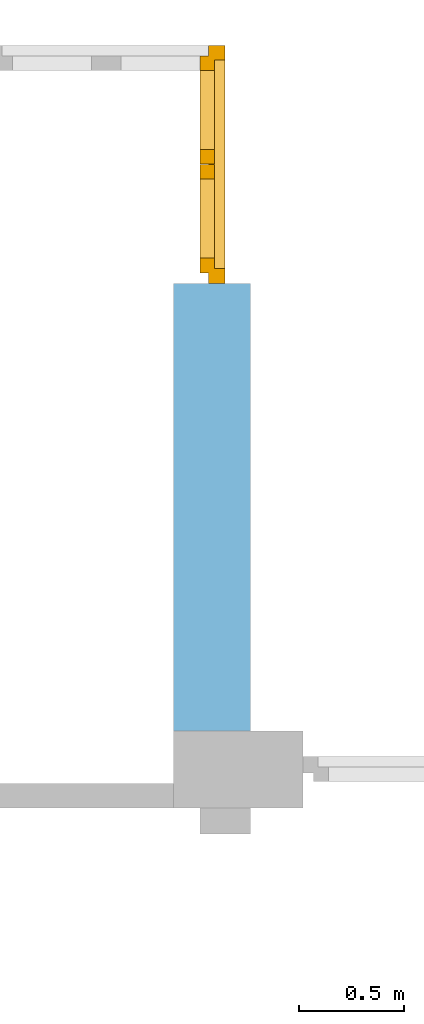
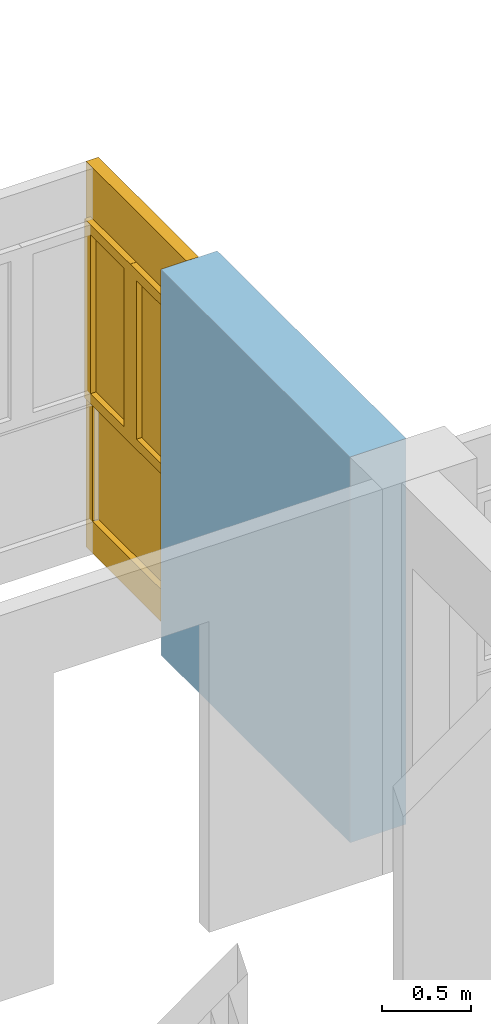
# One storey, part 21 of 42: 1 window, 1 opening, plus 1 element that does not belong to this part.
"""IFC2X3 building model written with IfcOpenShell, lengths in millimetres."""

from ifc_helpers import new_model, entity, si_unit, converted_unit, frame, frame_2d, origin, origin_with_axes, place, context, subcontext, project, spatial, rectangle, extrude, faceted_brep, material, layer, layer_set, layer_usage, type_object, element, fill, save


model = new_model("IFC2X3")

# Units and contexts
model_context = context("Model", 3, precision=1e-05, world=origin())
body_context = subcontext(model_context, "Body", "Model", "MODEL_VIEW")
ifc_project = project(units=[si_unit("LENGTHUNIT", "METRE", prefix="MILLI"), converted_unit("PLANEANGLEUNIT", "DEGREE", entity("IfcPlaneAngleMeasure", 0.0174532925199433), si_unit("PLANEANGLEUNIT", "RADIAN"), dimensions=[0, 0, 0, 0, 0, 0, 0]), si_unit("AREAUNIT", "SQUARE_METRE"), si_unit("VOLUMEUNIT", "CUBIC_METRE")], contexts=[model_context])

# Building, storey
building_placement = place(None, origin())
building = spatial("IfcBuilding", under=ifc_project, at=building_placement, Name="Gebäude", CompositionType="ELEMENT")
storey_placement = place(building_placement, frame((0.0, 0.0, 2730.0), z_axis=(0.0, 0.0, 1.0), x_axis=(1.0, 0.0, 0.0)))
storey = spatial("IfcBuildingStorey", under=building, at=storey_placement, Name="OG.- Grundriss", CompositionType="ELEMENT", Elevation=2730.0)

# Wall, opening, window
ifc_material_1 = material(Name="Poroton")
ifc_layer = layer(ifc_material_1, 365.0000000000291)
ifc_layer_set = layer_set([ifc_layer])
ifc_layer_usage = layer_usage(ifc_layer_set, "AXIS2", "POSITIVE", 0.0)
wall_placement = place(storey_placement, frame((159377.7928067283, 139284.8877324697, 0.0), z_axis=(0.0, 0.0, 1.0), x_axis=(0.0, -1.0, 0.0)))
wall = element("IfcWallStandardCase", 1, at=wall_placement, inside=storey, material=ifc_layer_usage, Name="<Unnamed Element>", context=body_context, shape_type="SweptSolid", body=[
    extrude(rectangle(XDim=3009.999999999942, YDim=365.0000000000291, at=frame_2d((1504.999999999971, 182.5000000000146), x_axis=(1.0, 0.0))), origin_with_axes(), (0.0, 0.0, 1.0), 2650.0),
])
opening_placement = place(wall_placement, frame((0.0, 0.0, 0.0), z_axis=(0.0, 1.0, 0.0), x_axis=(0.0, 0.0, 1.0)))
opening = element("IfcOpeningElement", 2, at=opening_placement, cuts=wall, Name="Fensteröffnung", ObjectType="Opening", context=body_context, shape_type="Brep", body=[
    faceted_brep([(0.0, 884.9999999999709, 0.0), (0.0, 884.9999999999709, 365.0000000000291), (0.0, -365.0000000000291, 365.0000000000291), (0.0, -365.0000000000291, -884.9999999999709), (0.0, 0.0, -884.9999999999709), (0.0, 0.0, 0.0), (2650.0, 884.9999999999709, 365.0000000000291), (2650.0, 884.9999999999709, 0.0), (2650.0, 0.0, 0.0), (2650.0, 0.0, -884.9999999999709), (2650.0, -365.0000000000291, -884.9999999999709), (2650.0, -365.0000000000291, 365.0000000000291), (0.0, 884.9999999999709, 365.0000000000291), (0.0, 884.9999999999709, 0.0), (2650.0, 884.9999999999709, 0.0), (2650.0, 884.9999999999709, 365.0000000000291), (0.0, -365.0000000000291, 365.0000000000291), (0.0, 884.9999999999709, 365.0000000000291), (2650.0, 884.9999999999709, 365.0000000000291), (2650.0, -365.0000000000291, 365.0000000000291), (0.0, 884.9999999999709, 0.0), (0.0, 0.0, 0.0), (2650.0, 0.0, 0.0), (2650.0, 884.9999999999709, 0.0), (0.0, -365.0000000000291, -884.9999999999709), (0.0, -365.0000000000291, 365.0000000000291), (2650.0, -365.0000000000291, 365.0000000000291), (2650.0, -365.0000000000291, -884.9999999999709), (0.0, 0.0, -884.9999999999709), (0.0, -365.0000000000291, -884.9999999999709), (2650.0, -365.0000000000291, -884.9999999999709), (2650.0, 0.0, -884.9999999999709), (0.0, 0.0, 0.0), (0.0, 0.0, -884.9999999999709), (2650.0, 0.0, -884.9999999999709), (2650.0, 0.0, 0.0)], [[[0, 1, 2, 3, 4, 5]], [[6, 7, 8, 9, 10, 11]], [[12, 13, 14, 15]], [[16, 17, 18, 19]], [[20, 21, 22, 23]], [[24, 25, 26, 27]], [[28, 29, 30, 31]], [[32, 33, 34, 35]]], orient=[[False], [False], [False], [False], [False], [False], [False], [False]]),
])
ifc_material_2 = material()
window_style = type_object("IfcWindowStyle", Name="Fenster", ConstructionType="NOTDEFINED", OperationType="USERDEFINED", ParameterTakesPrecedence=False, Sizeable=False)
window_placement = place(opening_placement, frame((0.0, 0.0, 0.0), z_axis=(1.0, 0.0, 0.0), x_axis=(0.0, 1.0, 0.0)))
window = element("IfcWindow", 3, at=window_placement, inside=storey, type_object=window_style, material=ifc_material_2, Name="Fenster", OverallHeight=2650.0, OverallWidth=1067.5, context=body_context, shape_type="Brep", body=[
    faceted_brep([(884.9999999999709, 165.0000000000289, 2650.0), (884.9999999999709, 165.0000000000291, -2.449293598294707e-15), (814.9999999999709, 165.0000000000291, -2.449293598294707e-15), (814.9999999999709, 165.0000000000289, 2650.0), (884.9999999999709, 245.0000000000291, 2.449293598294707e-15), (884.9999999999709, 245.0000000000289, 2650.0), (814.9999999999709, 245.000000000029, 2650.0), (814.9999999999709, 245.0000000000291, 2.449293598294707e-15), (884.9999999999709, 165.0000000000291, -2.449293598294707e-15), (884.9999999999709, 165.0000000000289, 2650.0), (884.9999999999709, 245.0000000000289, 2650.0), (884.9999999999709, 245.0000000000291, 2.449293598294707e-15), (814.9999999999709, 165.0000000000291, -2.449293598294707e-15), (884.9999999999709, 165.0000000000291, -2.449293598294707e-15), (884.9999999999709, 245.0000000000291, 2.449293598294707e-15), (814.9999999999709, 245.0000000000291, 2.449293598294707e-15), (814.9999999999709, 165.0000000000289, 2650.0), (814.9999999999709, 165.0000000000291, -2.449293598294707e-15), (814.9999999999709, 245.0000000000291, 2.449293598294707e-15), (814.9999999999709, 245.000000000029, 2650.0), (884.9999999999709, 165.0000000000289, 2650.0), (814.9999999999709, 165.0000000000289, 2650.0), (814.9999999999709, 245.000000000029, 2650.0), (884.9999999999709, 245.0000000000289, 2650.0)], [[[0, 1, 2, 3]], [[4, 5, 6, 7]], [[8, 9, 10, 11]], [[12, 13, 14, 15]], [[16, 17, 18, 19]], [[20, 21, 22, 23]]], orient=[[False], [False], [False], [False], [False], [False]]),
    faceted_brep([(-175.0000000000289, 165.000000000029, 2650.0), (-175.0000000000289, 165.0000000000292, -2.449293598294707e-15), (-245.0000000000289, 165.0000000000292, -2.449293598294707e-15), (-245.0000000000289, 165.000000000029, 2650.0), (-175.0000000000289, 245.0000000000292, 2.449293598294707e-15), (-175.0000000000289, 245.000000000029, 2650.0), (-245.0000000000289, 245.000000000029, 2650.0), (-245.0000000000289, 245.0000000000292, 2.449293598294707e-15), (-175.0000000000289, 165.0000000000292, -2.449293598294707e-15), (-175.0000000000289, 165.000000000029, 2650.0), (-175.0000000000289, 245.000000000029, 2650.0), (-175.0000000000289, 245.0000000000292, 2.449293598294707e-15), (-245.0000000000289, 165.0000000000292, -2.449293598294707e-15), (-175.0000000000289, 165.0000000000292, -2.449293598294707e-15), (-175.0000000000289, 245.0000000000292, 2.449293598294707e-15), (-245.0000000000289, 245.0000000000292, 2.449293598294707e-15), (-245.0000000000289, 165.000000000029, 2650.0), (-245.0000000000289, 165.0000000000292, -2.449293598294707e-15), (-245.0000000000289, 245.0000000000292, 2.449293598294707e-15), (-245.0000000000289, 245.000000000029, 2650.0), (-175.0000000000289, 165.000000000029, 2650.0), (-245.0000000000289, 165.000000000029, 2650.0), (-245.0000000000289, 245.000000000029, 2650.0), (-175.0000000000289, 245.000000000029, 2650.0)], [[[0, 1, 2, 3]], [[4, 5, 6, 7]], [[8, 9, 10, 11]], [[12, 13, 14, 15]], [[16, 17, 18, 19]], [[20, 21, 22, 23]]], orient=[[False], [False], [False], [False], [False], [False]]),
    faceted_brep([(814.9999999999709, 165.0000000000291, 220.0), (814.9999999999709, 165.0000000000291, -2.449293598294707e-15), (-175.0000000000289, 165.0000000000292, -2.449293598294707e-15), (-175.0000000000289, 165.0000000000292, 220.0), (814.9999999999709, 245.0000000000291, 2.449293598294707e-15), (814.9999999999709, 245.0000000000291, 220.0), (-175.0000000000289, 245.0000000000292, 220.0), (-175.0000000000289, 245.0000000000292, 2.449293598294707e-15), (814.9999999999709, 165.0000000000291, -2.449293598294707e-15), (814.9999999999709, 165.0000000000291, 220.0), (814.9999999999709, 245.0000000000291, 220.0), (814.9999999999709, 245.0000000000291, 2.449293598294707e-15), (-175.0000000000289, 165.0000000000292, -2.449293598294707e-15), (814.9999999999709, 165.0000000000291, -2.449293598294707e-15), (814.9999999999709, 245.0000000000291, 2.449293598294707e-15), (-175.0000000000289, 245.0000000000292, 2.449293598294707e-15), (-175.0000000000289, 165.0000000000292, 220.0), (-175.0000000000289, 165.0000000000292, -2.449293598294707e-15), (-175.0000000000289, 245.0000000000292, 2.449293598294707e-15), (-175.0000000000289, 245.0000000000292, 220.0), (814.9999999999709, 165.0000000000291, 220.0), (-175.0000000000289, 165.0000000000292, 220.0), (-175.0000000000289, 245.0000000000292, 220.0), (814.9999999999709, 245.0000000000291, 220.0)], [[[0, 1, 2, 3]], [[4, 5, 6, 7]], [[8, 9, 10, 11]], [[12, 13, 14, 15]], [[16, 17, 18, 19]], [[20, 21, 22, 23]]], orient=[[False], [False], [False], [False], [False], [False]]),
    faceted_brep([(814.9999999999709, 165.0000000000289, 2650.0), (814.9999999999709, 165.000000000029, 2280.0), (-175.0000000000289, 165.0000000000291, 2280.0), (-175.0000000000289, 165.000000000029, 2650.0), (814.9999999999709, 245.000000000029, 2280.0), (814.9999999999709, 245.0000000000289, 2650.0), (-175.0000000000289, 245.000000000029, 2650.0), (-175.0000000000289, 245.000000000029, 2280.0), (814.9999999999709, 165.000000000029, 2280.0), (814.9999999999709, 165.0000000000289, 2650.0), (814.9999999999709, 245.0000000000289, 2650.0), (814.9999999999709, 245.000000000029, 2280.0), (-175.0000000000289, 165.0000000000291, 2280.0), (814.9999999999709, 165.000000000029, 2280.0), (814.9999999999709, 245.000000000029, 2280.0), (-175.0000000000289, 245.000000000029, 2280.0), (-175.0000000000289, 165.000000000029, 2650.0), (-175.0000000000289, 165.0000000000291, 2280.0), (-175.0000000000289, 245.000000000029, 2280.0), (-175.0000000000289, 245.000000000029, 2650.0), (814.9999999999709, 165.0000000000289, 2650.0), (-175.0000000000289, 165.000000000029, 2650.0), (-175.0000000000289, 245.000000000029, 2650.0), (814.9999999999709, 245.0000000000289, 2650.0)], [[[0, 1, 2, 3]], [[4, 5, 6, 7]], [[8, 9, 10, 11]], [[12, 13, 14, 15]], [[16, 17, 18, 19]], [[20, 21, 22, 23]]], orient=[[False], [False], [False], [False], [False], [False]]),
    faceted_brep([(814.9999999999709, 165.0000000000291, 1090.0), (814.9999999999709, 165.0000000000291, 1020.0), (-175.0000000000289, 165.0000000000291, 1020.0), (-175.0000000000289, 165.0000000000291, 1090.0), (814.9999999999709, 245.0000000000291, 1020.0), (814.9999999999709, 245.0000000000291, 1090.0), (-175.0000000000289, 245.0000000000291, 1090.0), (-175.0000000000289, 245.0000000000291, 1020.0), (814.9999999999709, 165.0000000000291, 1020.0), (814.9999999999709, 165.0000000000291, 1090.0), (814.9999999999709, 245.0000000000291, 1090.0), (814.9999999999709, 245.0000000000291, 1020.0), (-175.0000000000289, 165.0000000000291, 1020.0), (814.9999999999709, 165.0000000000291, 1020.0), (814.9999999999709, 245.0000000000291, 1020.0), (-175.0000000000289, 245.0000000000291, 1020.0), (-175.0000000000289, 165.0000000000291, 1090.0), (-175.0000000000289, 165.0000000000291, 1020.0), (-175.0000000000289, 245.0000000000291, 1020.0), (-175.0000000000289, 245.0000000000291, 1090.0), (814.9999999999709, 165.0000000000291, 1090.0), (-175.0000000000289, 165.0000000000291, 1090.0), (-175.0000000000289, 245.0000000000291, 1090.0), (814.9999999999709, 245.0000000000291, 1090.0)], [[[0, 1, 2, 3]], [[4, 5, 6, 7]], [[8, 9, 10, 11]], [[12, 13, 14, 15]], [[16, 17, 18, 19]], [[20, 21, 22, 23]]], orient=[[False], [False], [False], [False], [False], [False]]),
    faceted_brep([(814.9999999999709, 205.0000000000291, 220.0), (-175.0000000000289, 205.0000000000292, 220.0), (-175.0000000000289, 205.0000000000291, 1020.0), (814.9999999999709, 205.0000000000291, 1020.0), (814.9999999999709, 206.0000000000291, 220.0), (814.9999999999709, 206.0000000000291, 1020.0), (-175.0000000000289, 206.0000000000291, 1020.0), (-175.0000000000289, 206.0000000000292, 220.0), (814.9999999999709, 205.0000000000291, 220.0), (814.9999999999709, 206.0000000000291, 220.0), (-175.0000000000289, 206.0000000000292, 220.0), (-175.0000000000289, 205.0000000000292, 220.0), (-175.0000000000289, 205.0000000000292, 220.0), (-175.0000000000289, 206.0000000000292, 220.0), (-175.0000000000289, 206.0000000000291, 1020.0), (-175.0000000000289, 205.0000000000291, 1020.0), (-175.0000000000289, 205.0000000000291, 1020.0), (-175.0000000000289, 206.0000000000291, 1020.0), (814.9999999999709, 206.0000000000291, 1020.0), (814.9999999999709, 205.0000000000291, 1020.0), (814.9999999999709, 205.0000000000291, 1020.0), (814.9999999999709, 206.0000000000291, 1020.0), (814.9999999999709, 206.0000000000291, 220.0), (814.9999999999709, 205.0000000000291, 220.0)], [[[0, 1, 2, 3]], [[4, 5, 6, 7]], [[8, 9, 10, 11]], [[12, 13, 14, 15]], [[16, 17, 18, 19]], [[20, 21, 22, 23]]], orient=[[False], [False], [False], [False], [False], [False]]),
    faceted_brep([(834.9999999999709, 125.000000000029, 2300.0), (834.9999999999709, 125.0000000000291, 1070.0), (764.9999999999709, 125.0000000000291, 1070.0), (764.9999999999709, 125.000000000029, 2300.0), (834.9999999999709, 195.0000000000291, 1070.0), (834.9999999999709, 195.000000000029, 2300.0), (764.9999999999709, 195.000000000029, 2300.0), (764.9999999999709, 195.0000000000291, 1070.0), (834.9999999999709, 125.0000000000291, 1070.0), (834.9999999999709, 125.000000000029, 2300.0), (834.9999999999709, 195.000000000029, 2300.0), (834.9999999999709, 195.0000000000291, 1070.0), (764.9999999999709, 125.0000000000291, 1070.0), (834.9999999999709, 125.0000000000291, 1070.0), (834.9999999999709, 195.0000000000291, 1070.0), (764.9999999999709, 195.0000000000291, 1070.0), (764.9999999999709, 125.000000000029, 2300.0), (764.9999999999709, 125.0000000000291, 1070.0), (764.9999999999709, 195.0000000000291, 1070.0), (764.9999999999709, 195.000000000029, 2300.0), (834.9999999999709, 125.000000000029, 2300.0), (764.9999999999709, 125.000000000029, 2300.0), (764.9999999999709, 195.000000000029, 2300.0), (834.9999999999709, 195.000000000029, 2300.0)], [[[0, 1, 2, 3]], [[4, 5, 6, 7]], [[8, 9, 10, 11]], [[12, 13, 14, 15]], [[16, 17, 18, 19]], [[20, 21, 22, 23]]], orient=[[False], [False], [False], [False], [False], [False]]),
    faceted_brep([(390.4999999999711, 125.000000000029, 2300.0), (390.4999999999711, 125.0000000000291, 1070.0), (320.4999999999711, 125.0000000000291, 1070.0), (320.4999999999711, 125.000000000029, 2300.0), (390.4999999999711, 195.0000000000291, 1070.0), (390.4999999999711, 195.000000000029, 2300.0), (320.4999999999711, 195.000000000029, 2300.0), (320.4999999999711, 195.0000000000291, 1070.0), (390.4999999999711, 125.0000000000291, 1070.0), (390.4999999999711, 125.000000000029, 2300.0), (390.4999999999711, 195.000000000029, 2300.0), (390.4999999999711, 195.0000000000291, 1070.0), (320.4999999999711, 125.0000000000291, 1070.0), (390.4999999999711, 125.0000000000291, 1070.0), (390.4999999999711, 195.0000000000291, 1070.0), (320.4999999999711, 195.0000000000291, 1070.0), (320.4999999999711, 125.000000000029, 2300.0), (320.4999999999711, 125.0000000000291, 1070.0), (320.4999999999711, 195.0000000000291, 1070.0), (320.4999999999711, 195.000000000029, 2300.0), (390.4999999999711, 125.000000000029, 2300.0), (320.4999999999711, 125.000000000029, 2300.0), (320.4999999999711, 195.000000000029, 2300.0), (390.4999999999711, 195.000000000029, 2300.0)], [[[0, 1, 2, 3]], [[4, 5, 6, 7]], [[8, 9, 10, 11]], [[12, 13, 14, 15]], [[16, 17, 18, 19]], [[20, 21, 22, 23]]], orient=[[False], [False], [False], [False], [False], [False]]),
    faceted_brep([(764.9999999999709, 125.0000000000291, 1140.0), (764.9999999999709, 125.0000000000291, 1070.0), (390.4999999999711, 125.0000000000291, 1070.0), (390.4999999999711, 125.0000000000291, 1140.0), (764.9999999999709, 195.0000000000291, 1070.0), (764.9999999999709, 195.0000000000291, 1140.0), (390.4999999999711, 195.0000000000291, 1140.0), (390.4999999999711, 195.0000000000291, 1070.0), (764.9999999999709, 125.0000000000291, 1070.0), (764.9999999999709, 125.0000000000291, 1140.0), (764.9999999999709, 195.0000000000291, 1140.0), (764.9999999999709, 195.0000000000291, 1070.0), (390.4999999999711, 125.0000000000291, 1070.0), (764.9999999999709, 125.0000000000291, 1070.0), (764.9999999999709, 195.0000000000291, 1070.0), (390.4999999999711, 195.0000000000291, 1070.0), (390.4999999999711, 125.0000000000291, 1140.0), (390.4999999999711, 125.0000000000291, 1070.0), (390.4999999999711, 195.0000000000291, 1070.0), (390.4999999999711, 195.0000000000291, 1140.0), (764.9999999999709, 125.0000000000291, 1140.0), (390.4999999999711, 125.0000000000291, 1140.0), (390.4999999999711, 195.0000000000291, 1140.0), (764.9999999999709, 195.0000000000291, 1140.0)], [[[0, 1, 2, 3]], [[4, 5, 6, 7]], [[8, 9, 10, 11]], [[12, 13, 14, 15]], [[16, 17, 18, 19]], [[20, 21, 22, 23]]], orient=[[False], [False], [False], [False], [False], [False]]),
    faceted_brep([(764.9999999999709, 125.000000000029, 2300.0), (764.9999999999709, 125.000000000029, 2230.0), (390.4999999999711, 125.000000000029, 2230.0), (390.4999999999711, 125.000000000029, 2300.0), (764.9999999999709, 195.000000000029, 2230.0), (764.9999999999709, 195.000000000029, 2300.0), (390.4999999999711, 195.000000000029, 2300.0), (390.4999999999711, 195.000000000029, 2230.0), (764.9999999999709, 125.000000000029, 2230.0), (764.9999999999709, 125.000000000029, 2300.0), (764.9999999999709, 195.000000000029, 2300.0), (764.9999999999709, 195.000000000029, 2230.0), (390.4999999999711, 125.000000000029, 2230.0), (764.9999999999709, 125.000000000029, 2230.0), (764.9999999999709, 195.000000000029, 2230.0), (390.4999999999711, 195.000000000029, 2230.0), (390.4999999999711, 125.000000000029, 2300.0), (390.4999999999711, 125.000000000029, 2230.0), (390.4999999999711, 195.000000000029, 2230.0), (390.4999999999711, 195.000000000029, 2300.0), (764.9999999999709, 125.000000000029, 2300.0), (390.4999999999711, 125.000000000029, 2300.0), (390.4999999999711, 195.000000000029, 2300.0), (764.9999999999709, 195.000000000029, 2300.0)], [[[0, 1, 2, 3]], [[4, 5, 6, 7]], [[8, 9, 10, 11]], [[12, 13, 14, 15]], [[16, 17, 18, 19]], [[20, 21, 22, 23]]], orient=[[False], [False], [False], [False], [False], [False]]),
    faceted_brep([(319.499999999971, 125.000000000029, 2300.0), (319.499999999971, 125.0000000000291, 1070.0), (249.499999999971, 125.0000000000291, 1070.0), (249.499999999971, 125.000000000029, 2300.0), (319.499999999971, 195.0000000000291, 1070.0), (319.499999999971, 195.000000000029, 2300.0), (249.499999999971, 195.000000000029, 2300.0), (249.499999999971, 195.0000000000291, 1070.0), (319.499999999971, 125.0000000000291, 1070.0), (319.499999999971, 125.000000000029, 2300.0), (319.499999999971, 195.000000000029, 2300.0), (319.499999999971, 195.0000000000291, 1070.0), (249.499999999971, 125.0000000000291, 1070.0), (319.499999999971, 125.0000000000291, 1070.0), (319.499999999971, 195.0000000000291, 1070.0), (249.499999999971, 195.0000000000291, 1070.0), (249.499999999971, 125.000000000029, 2300.0), (249.499999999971, 125.0000000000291, 1070.0), (249.499999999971, 195.0000000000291, 1070.0), (249.499999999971, 195.000000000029, 2300.0), (319.499999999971, 125.000000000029, 2300.0), (249.499999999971, 125.000000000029, 2300.0), (249.499999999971, 195.000000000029, 2300.0), (319.499999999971, 195.000000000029, 2300.0)], [[[0, 1, 2, 3]], [[4, 5, 6, 7]], [[8, 9, 10, 11]], [[12, 13, 14, 15]], [[16, 17, 18, 19]], [[20, 21, 22, 23]]], orient=[[False], [False], [False], [False], [False], [False]]),
    faceted_brep([(-125.0000000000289, 125.000000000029, 2300.0), (-125.0000000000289, 125.0000000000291, 1070.0), (-195.0000000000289, 125.0000000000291, 1070.0), (-195.0000000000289, 125.0000000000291, 2300.0), (-125.0000000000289, 195.0000000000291, 1070.0), (-125.0000000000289, 195.0000000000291, 2300.0), (-195.0000000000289, 195.0000000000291, 2300.0), (-195.0000000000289, 195.0000000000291, 1070.0), (-125.0000000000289, 125.0000000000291, 1070.0), (-125.0000000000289, 125.000000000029, 2300.0), (-125.0000000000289, 195.0000000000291, 2300.0), (-125.0000000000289, 195.0000000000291, 1070.0), (-195.0000000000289, 125.0000000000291, 1070.0), (-125.0000000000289, 125.0000000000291, 1070.0), (-125.0000000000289, 195.0000000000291, 1070.0), (-195.0000000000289, 195.0000000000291, 1070.0), (-195.0000000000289, 125.0000000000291, 2300.0), (-195.0000000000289, 125.0000000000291, 1070.0), (-195.0000000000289, 195.0000000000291, 1070.0), (-195.0000000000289, 195.0000000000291, 2300.0), (-125.0000000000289, 125.000000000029, 2300.0), (-195.0000000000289, 125.0000000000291, 2300.0), (-195.0000000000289, 195.0000000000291, 2300.0), (-125.0000000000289, 195.0000000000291, 2300.0)], [[[0, 1, 2, 3]], [[4, 5, 6, 7]], [[8, 9, 10, 11]], [[12, 13, 14, 15]], [[16, 17, 18, 19]], [[20, 21, 22, 23]]], orient=[[False], [False], [False], [False], [False], [False]]),
    faceted_brep([(249.499999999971, 125.0000000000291, 1140.0), (249.499999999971, 125.0000000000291, 1070.0), (-125.0000000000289, 125.0000000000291, 1070.0), (-125.0000000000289, 125.0000000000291, 1140.0), (249.499999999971, 195.0000000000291, 1070.0), (249.499999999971, 195.0000000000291, 1140.0), (-125.0000000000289, 195.0000000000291, 1140.0), (-125.0000000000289, 195.0000000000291, 1070.0), (249.499999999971, 125.0000000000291, 1070.0), (249.499999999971, 125.0000000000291, 1140.0), (249.499999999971, 195.0000000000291, 1140.0), (249.499999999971, 195.0000000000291, 1070.0), (-125.0000000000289, 125.0000000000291, 1070.0), (249.499999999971, 125.0000000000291, 1070.0), (249.499999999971, 195.0000000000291, 1070.0), (-125.0000000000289, 195.0000000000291, 1070.0), (-125.0000000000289, 125.0000000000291, 1140.0), (-125.0000000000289, 125.0000000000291, 1070.0), (-125.0000000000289, 195.0000000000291, 1070.0), (-125.0000000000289, 195.0000000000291, 1140.0), (249.499999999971, 125.0000000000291, 1140.0), (-125.0000000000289, 125.0000000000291, 1140.0), (-125.0000000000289, 195.0000000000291, 1140.0), (249.499999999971, 195.0000000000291, 1140.0)], [[[0, 1, 2, 3]], [[4, 5, 6, 7]], [[8, 9, 10, 11]], [[12, 13, 14, 15]], [[16, 17, 18, 19]], [[20, 21, 22, 23]]], orient=[[False], [False], [False], [False], [False], [False]]),
    faceted_brep([(249.499999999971, 125.000000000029, 2300.0), (249.499999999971, 125.000000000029, 2230.0), (-125.0000000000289, 125.000000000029, 2230.0), (-125.0000000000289, 125.000000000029, 2300.0), (249.499999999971, 195.000000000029, 2230.0), (249.499999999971, 195.000000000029, 2300.0), (-125.0000000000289, 195.0000000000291, 2300.0), (-125.0000000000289, 195.0000000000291, 2230.0), (249.499999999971, 125.000000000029, 2230.0), (249.499999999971, 125.000000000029, 2300.0), (249.499999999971, 195.000000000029, 2300.0), (249.499999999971, 195.000000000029, 2230.0), (-125.0000000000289, 125.000000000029, 2230.0), (249.499999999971, 125.000000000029, 2230.0), (249.499999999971, 195.000000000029, 2230.0), (-125.0000000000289, 195.0000000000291, 2230.0), (-125.0000000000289, 125.000000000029, 2300.0), (-125.0000000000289, 125.000000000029, 2230.0), (-125.0000000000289, 195.0000000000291, 2230.0), (-125.0000000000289, 195.0000000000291, 2300.0), (249.499999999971, 125.000000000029, 2300.0), (-125.0000000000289, 125.000000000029, 2300.0), (-125.0000000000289, 195.0000000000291, 2300.0), (249.499999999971, 195.000000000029, 2300.0)], [[[0, 1, 2, 3]], [[4, 5, 6, 7]], [[8, 9, 10, 11]], [[12, 13, 14, 15]], [[16, 17, 18, 19]], [[20, 21, 22, 23]]], orient=[[False], [False], [False], [False], [False], [False]]),
    faceted_brep([(764.9999999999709, 160.0000000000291, 1140.0), (390.4999999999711, 160.0000000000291, 1140.0), (390.4999999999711, 160.000000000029, 2230.0), (764.9999999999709, 160.000000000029, 2230.0), (764.9999999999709, 161.0000000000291, 1140.0), (764.9999999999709, 161.000000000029, 2230.0), (390.4999999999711, 161.000000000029, 2230.0), (390.4999999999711, 161.0000000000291, 1140.0), (764.9999999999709, 160.0000000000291, 1140.0), (764.9999999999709, 161.0000000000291, 1140.0), (390.4999999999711, 161.0000000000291, 1140.0), (390.4999999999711, 160.0000000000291, 1140.0), (390.4999999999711, 160.0000000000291, 1140.0), (390.4999999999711, 161.0000000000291, 1140.0), (390.4999999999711, 161.000000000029, 2230.0), (390.4999999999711, 160.000000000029, 2230.0), (390.4999999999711, 160.000000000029, 2230.0), (390.4999999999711, 161.000000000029, 2230.0), (764.9999999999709, 161.000000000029, 2230.0), (764.9999999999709, 160.000000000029, 2230.0), (764.9999999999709, 160.000000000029, 2230.0), (764.9999999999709, 161.000000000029, 2230.0), (764.9999999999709, 161.0000000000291, 1140.0), (764.9999999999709, 160.0000000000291, 1140.0)], [[[0, 1, 2, 3]], [[4, 5, 6, 7]], [[8, 9, 10, 11]], [[12, 13, 14, 15]], [[16, 17, 18, 19]], [[20, 21, 22, 23]]], orient=[[False], [False], [False], [False], [False], [False]]),
    faceted_brep([(249.4999999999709, 160.0000000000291, 1140.0), (-125.000000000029, 160.0000000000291, 1140.0), (-125.000000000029, 160.000000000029, 2230.0), (249.4999999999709, 160.000000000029, 2230.0), (249.4999999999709, 161.0000000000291, 1140.0), (249.4999999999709, 161.000000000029, 2230.0), (-125.000000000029, 161.000000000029, 2230.0), (-125.000000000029, 161.0000000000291, 1140.0), (249.4999999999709, 160.0000000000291, 1140.0), (249.4999999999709, 161.0000000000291, 1140.0), (-125.000000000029, 161.0000000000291, 1140.0), (-125.000000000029, 160.0000000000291, 1140.0), (-125.000000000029, 160.0000000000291, 1140.0), (-125.000000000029, 161.0000000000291, 1140.0), (-125.000000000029, 161.000000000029, 2230.0), (-125.000000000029, 160.000000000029, 2230.0), (-125.000000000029, 160.000000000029, 2230.0), (-125.000000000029, 161.000000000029, 2230.0), (249.4999999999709, 161.000000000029, 2230.0), (249.4999999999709, 160.000000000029, 2230.0), (249.4999999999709, 160.000000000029, 2230.0), (249.4999999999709, 161.000000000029, 2230.0), (249.4999999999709, 161.0000000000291, 1140.0), (249.4999999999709, 160.0000000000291, 1140.0)], [[[0, 1, 2, 3]], [[4, 5, 6, 7]], [[8, 9, 10, 11]], [[12, 13, 14, 15]], [[16, 17, 18, 19]], [[20, 21, 22, 23]]], orient=[[False], [False], [False], [False], [False], [False]]),
])
fill(opening, window)

save(model, "model.ifc")
